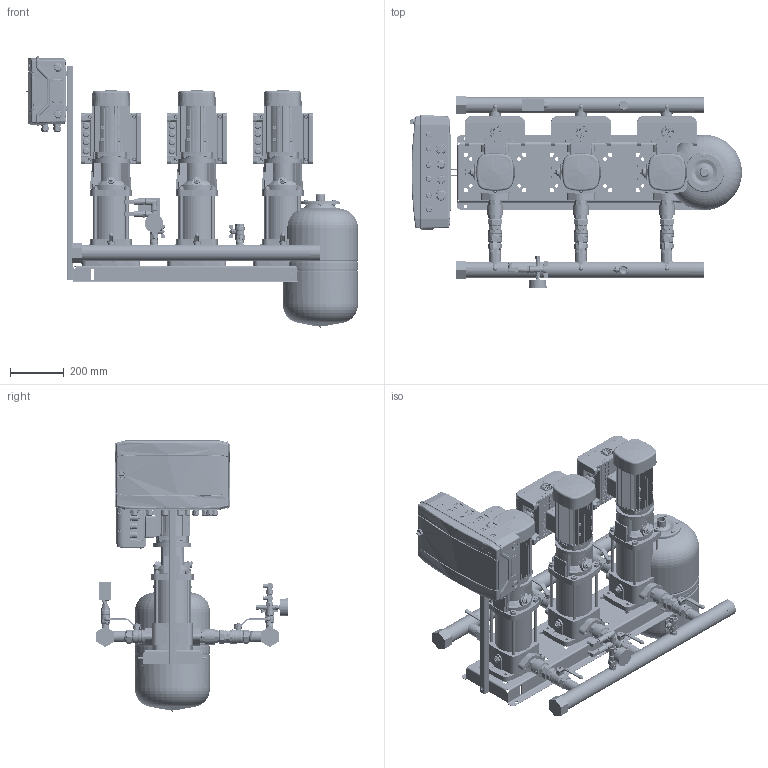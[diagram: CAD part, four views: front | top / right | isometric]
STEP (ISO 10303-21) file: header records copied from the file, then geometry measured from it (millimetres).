
FILE_DESCRIPTION(('CATIA V5 STEP Exchange','CAx-IF Rec.Pracs.--- Model Styling and Organization---1.4--- 2014-01-23','CAx-IF Rec.Pracs.---3D Tessellated Data Validation Properties---0.5---2014-09-14'),'2;1');
FILE_NAME('C:\Users\78432\YandexDisk\Drawings and 3D\3D Hydro Booster\Hydro-ME 3D\Hydro Models\Hydro ME 3 CRV3-xx\Hydro ME 3 CRVE3-11.stp','2023-09-21T09:01:42+00:00',('none'),('none'),'CATIA Version 5-6 Release 2019 SP6','CATIA V5 STEP AP242 v1','none');
FILE_SCHEMA(('AP242_MANAGED_MODEL_BASED_3D_ENGINEERING_MIM_LF {1 0 10303 442 1 1 4}'));
Products named in the file (46): Hydro ME 3 CRVE3-11; 92051012; CRV3-11 Set; CRV 3-11_A_Oval_1.1kW; Base; Flange.1; Flange.2; Sleeve; Pumphead; Staybolt.1; Staybolt.2; Staybolt.3; Staybolt.4; Plug; AirVent; Motor; 92807543_9022-04; Hydraulica NY DN32 1,25 PN16; DN32_FM_LV_47.303.32; 92814060_9013-04; SAJ PDH30 0,75-2,2kW; 97941451; 405801; 91040265; 91040272; 97941488; 00ID7526; Holder and CP 18mod; 92878909; Control ME (18mod); 2 sensors + manometer cpl.; manometr 16 bar; RPD-I-G1_2; 9021-01; 2070 1/2-1/2; _2020 1/2-1/2; 98594078; Tank 24L cpl.; DN20_FF_BF_47.300.20; WAV-24(D140 1'')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
Assembly tree (55 placements, depth 4):
  Hydro ME 3 CRVE3-11
    92051012
    CRV3-11 Set  x3
      CRV 3-11_A_Oval_1.1kW
        Base
        Flange.1
        Flange.2
        Sleeve
        Pumphead
        Staybolt.1
        Staybolt.2
        Staybolt.3
        Staybolt.4
        Plug
        AirVent
        Motor
      92807543_9022-04
      Hydraulica NY DN32 1,25 PN16
      DN32_FM_LV_47.303.32
      92814060_9013-04
      SAJ PDH30 0,75-2,2kW
    97941451  x2
      405801
      91040265
      91040272
      97941488
    00ID7526  x2
    Holder and CP 18mod
      92878909
      Control ME (18mod)
    2 sensors + manometer cpl.
      manometr 16 bar
      RPD-I-G1_2  x2
      9021-01
      2070 1/2-1/2
      _2020 1/2-1/2
      98594078
    Tank 24L cpl.
      DN20_FF_BF_47.300.20
      9021-03
    Relay cpl.
      Relay RD-2R
      DN20_FF_BF_47.300.20
      2530 3/4-1/2
      _2530 1/2-1/4
    91078139
  WAV-24(D140 1'')
Bounding box: 1236.82 x 712 x 1009.9 mm (x, y, z)
Volume: 62871655.5 mm3; surface area: 7167082.3 mm2
Topology: 218 solids, 254 shells, 25897 faces, 75781 edges, 50787 vertices
Faces by surface type: plane 11271, cylinder 6377, bspline 5889, cone 1763, torus 432, sphere 165
Entity records: 562569 total; most frequent: CARTESIAN_POINT 278453, ORIENTED_EDGE 72759, EDGE_CURVE 36861, DIRECTION 34072, VERTEX_POINT 24569, VECTOR 15862, LINE 15862, EDGE_LOOP 14348
